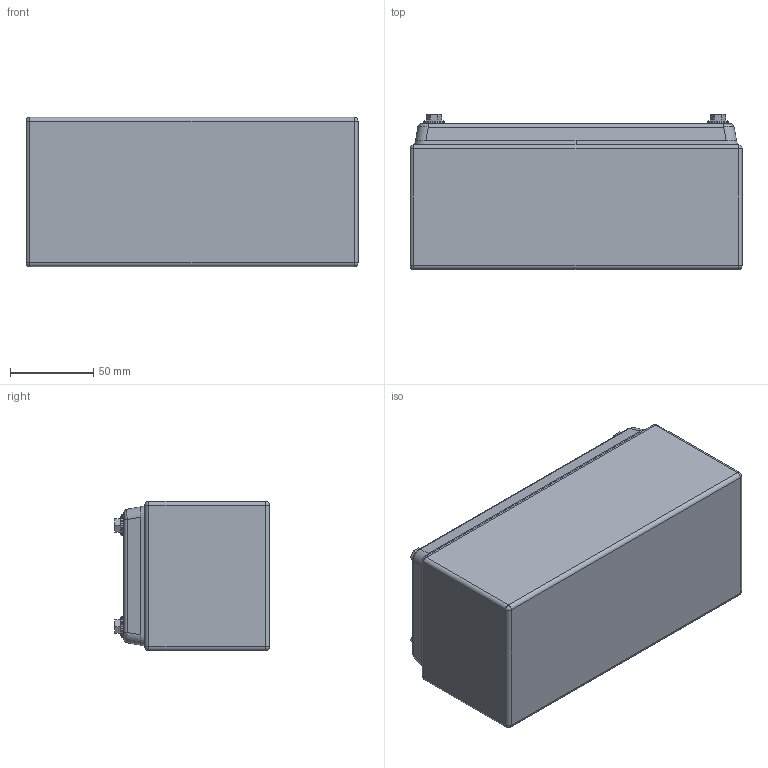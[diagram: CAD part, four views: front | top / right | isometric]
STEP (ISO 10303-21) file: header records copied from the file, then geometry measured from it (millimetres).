
FILE_DESCRIPTION (( 'STEP AP203' ), '1' );
FILE_NAME ('DEH03-316A.STEP', '2021-02-23T13:54:28', ( '' ), ( '' ), 'SwSTEP 2.0', 'SolidWorks 2020', '' );
FILE_SCHEMA (( 'CONFIG_CONTROL_DESIGN' ));
Length unit declared in the file: millimetre
Products named in the file (1): DEH03-316A
Bounding box: 200 x 93.3 x 90 mm (x, y, z)
Volume: 162215.5 mm3; surface area: 215197.1 mm2
Topology: 20 solids, 20 shells, 459 faces, 1105 edges, 712 vertices
Faces by surface type: plane 240, cylinder 156, bspline 27, cone 20, sphere 16
Entity records: 15844 total; most frequent: CARTESIAN_POINT 4988, DIRECTION 2254, ORIENTED_EDGE 2178, EDGE_CURVE 1089, AXIS2_PLACEMENT_3D 794, VERTEX_POINT 712, LINE 666, VECTOR 666
